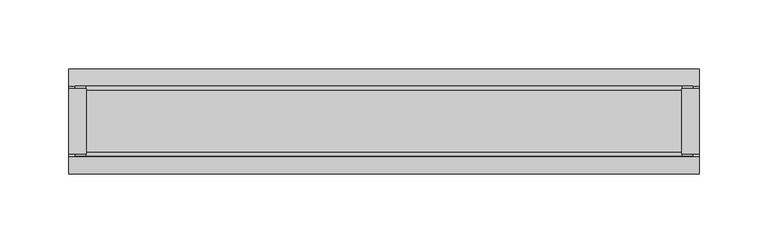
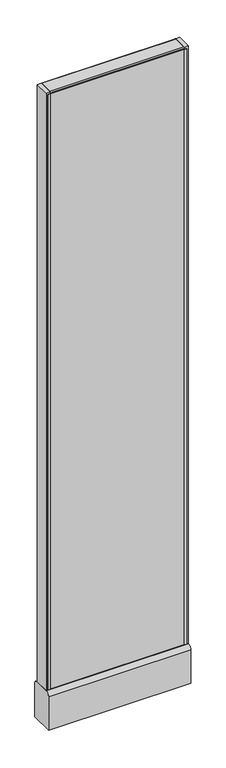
"""IFC4 building model written with IfcOpenShell, lengths in millimetres: furniture geometry."""

from ifc_helpers import new_model, si_unit, point, frame, frame_2d, origin, place, context, project, spatial, polyline, circle_curve, trimmed, segment, composite_curve, outline, extrude, source, transform, mapped, element, save
from ifc_brep_helpers import plane_surface, cylinder_surface, advanced_brep


def furniture_7ffcbc65(model_context):
    return source(origin(), model_context, "Body", "SolidModel", [
        advanced_brep(
        [(171.45, 0.0, 0.0), (196.85, 0.0, 0.0), (184.15, 0.0, 0.0), (171.45, 0.0, 4.7625), (196.85, 0.0, 4.7625), (177.8, 0.0, 4.7625), (190.5, 0.0, 4.7625), (177.8, 0.0, 111.125), (190.5, 0.0, 111.125), (184.15, 0.0, 111.125)],
        [
            (0, 1, circle_curve(frame((184.15, 0.0, 0.0), z_axis=(0.0, 0.0, -1.0), x_axis=(1.0, 0.0, 0.0)), 12.7)),
            (1, 2),
            (2, 0),
            (1, 0, circle_curve(frame((184.15, 0.0, 0.0), z_axis=(0.0, 0.0, -1.0), x_axis=(1.0, 0.0, 0.0)), 12.7)),
            (3, 4, circle_curve(frame((184.15, 0.0, 4.7625), z_axis=(0.0, 0.0, -1.0), x_axis=(1.0, 0.0, 0.0)), 12.7)),
            (4, 1),
            (0, 3),
            (4, 3, circle_curve(frame((184.15, 0.0, 4.7625), z_axis=(0.0, 0.0, -1.0), x_axis=(1.0, 0.0, 0.0)), 12.7)),
            (5, 6, circle_curve(frame((184.15, 0.0, 4.7625), z_axis=(0.0, 0.0, -1.0), x_axis=(1.0, 0.0, 0.0)), 6.35)),
            (6, 4),
            (3, 5),
            (6, 5, circle_curve(frame((184.15, 0.0, 4.7625), z_axis=(0.0, 0.0, -1.0), x_axis=(1.0, 0.0, 0.0)), 6.35)),
            (7, 8, circle_curve(frame((184.15, 0.0, 111.125), z_axis=(0.0, 0.0, -1.0), x_axis=(1.0, 0.0, 0.0)), 6.35)),
            (8, 6),
            (5, 7),
            (8, 7, circle_curve(frame((184.15, 0.0, 111.125), z_axis=(0.0, 0.0, -1.0), x_axis=(1.0, 0.0, 0.0)), 6.35)),
            (9, 8),
            (7, 9),
        ],
        [
            plane_surface(frame((184.15, 0.0, 0.0), z_axis=(0.0, 0.0, -1.0), x_axis=(1.0, 0.0, 0.0))),
            cylinder_surface(frame((184.15, 0.0, 114.882153), z_axis=(0.0, 0.0, 1.0), x_axis=(1.0, 0.0, 0.0)), 12.7),
            plane_surface(frame((184.15, 0.0, 4.7625), z_axis=(0.0, 0.0, 1.0), x_axis=(1.0, 0.0, 0.0))),
            cylinder_surface(frame((184.15, 0.0, 114.882153), z_axis=(0.0, 0.0, 1.0), x_axis=(1.0, 0.0, 0.0)), 6.35),
            plane_surface(frame((184.15, 0.0, 111.125), z_axis=(0.0, 0.0, 1.0), x_axis=(1.0, 0.0, 0.0))),
        ],
        [
            (0, [[1, 2, 3]]),
            (0, [[4, -3, -2]]),
            (1, [[5, 6, -1, 7]]),
            (1, [[8, -7, -4, -6]]),
            (2, [[9, 10, -5, 11]]),
            (2, [[12, -11, -8, -10]]),
            (3, [[13, 14, -9, 15]]),
            (3, [[16, -15, -12, -14]]),
            (4, [[17, -13, 18]]),
            (4, [[-18, -16, -17]]),
        ],
    ),
        advanced_brep(
        [(-196.85, 0.0, 4.7625), (-171.45, 0.0, 4.7625), (-171.45, 0.0, 0.0), (-196.85, 0.0, 0.0), (-190.5, 0.0, 4.7625), (-177.8, 0.0, 4.7625), (-190.5, 0.0, 111.125), (-177.8, 0.0, 111.125), (-184.15, 0.0, 111.125), (-184.15, 0.0, 0.0)],
        [
            (0, 1, circle_curve(frame((-184.15, 0.0, 4.7625), z_axis=(0.0, 0.0, -1.0), x_axis=(1.0, 0.0, 0.0)), 12.7)),
            (1, 2),
            (2, 3, circle_curve(frame((-184.15, 0.0, 0.0), z_axis=(0.0, 0.0, 1.0), x_axis=(1.0, 0.0, 0.0)), 12.7)),
            (3, 0),
            (1, 0, circle_curve(frame((-184.15, 0.0, 4.7625), z_axis=(0.0, 0.0, -1.0), x_axis=(1.0, 0.0, 0.0)), 12.7)),
            (3, 2, circle_curve(frame((-184.15, 0.0, 0.0), z_axis=(0.0, 0.0, 1.0), x_axis=(1.0, 0.0, 0.0)), 12.7)),
            (4, 5, circle_curve(frame((-184.15, 0.0, 4.7625), z_axis=(0.0, 0.0, -1.0), x_axis=(1.0, 0.0, 0.0)), 6.35)),
            (5, 1),
            (0, 4),
            (5, 4, circle_curve(frame((-184.15, 0.0, 4.7625), z_axis=(0.0, 0.0, -1.0), x_axis=(1.0, 0.0, 0.0)), 6.35)),
            (6, 7, circle_curve(frame((-184.15, 0.0, 111.125), z_axis=(0.0, 0.0, -1.0), x_axis=(1.0, 0.0, 0.0)), 6.35)),
            (7, 5),
            (4, 6),
            (7, 6, circle_curve(frame((-184.15, 0.0, 111.125), z_axis=(0.0, 0.0, -1.0), x_axis=(1.0, 0.0, 0.0)), 6.35)),
            (8, 7),
            (6, 8),
            (2, 9),
            (9, 3),
        ],
        [
            cylinder_surface(frame((-184.15, 0.0, 123.825), z_axis=(0.0, 0.0, 1.0), x_axis=(1.0, 0.0, 0.0)), 12.7),
            plane_surface(frame((-184.15, 0.0, 4.7625), z_axis=(0.0, 0.0, 1.0), x_axis=(1.0, 0.0, 0.0))),
            cylinder_surface(frame((-184.15, 0.0, 123.825), z_axis=(0.0, 0.0, 1.0), x_axis=(1.0, 0.0, 0.0)), 6.35),
            plane_surface(frame((-184.15, 0.0, 111.125), z_axis=(0.0, 0.0, 1.0), x_axis=(1.0, 0.0, 0.0))),
            plane_surface(frame((-184.15, 0.0, 0.0), z_axis=(0.0, 0.0, -1.0), x_axis=(1.0, 0.0, 0.0))),
        ],
        [
            (0, [[1, 2, 3, 4]]),
            (0, [[5, -4, 6, -2]]),
            (1, [[7, 8, -1, 9]]),
            (1, [[10, -9, -5, -8]]),
            (2, [[11, 12, -7, 13]]),
            (2, [[14, -13, -10, -12]]),
            (3, [[15, -11, 16]]),
            (3, [[-16, -14, -15]]),
            (4, [[-3, 17, 18]]),
            (4, [[-6, -18, -17]]),
        ],
    ),
        extrude(outline(polyline([(-228.6, 23.8125), (-215.9, 23.8125), (-215.9, -23.8125), (-228.6, -23.8125), (-228.6, 23.8125)])), frame((0.0, 0.0, 136.525), z_axis=(0.0, 0.0, 1.0), x_axis=(1.0, 0.0, 0.0)), (0.0, 0.0, 1.0), 2032.0),
        extrude(outline(polyline([(215.9, -23.8125), (215.9, 23.8125), (228.6, 23.8125), (228.6, -23.8125), (215.9, -23.8125)])), frame((0.0, 0.0, 136.525), z_axis=(0.0, 0.0, 1.0), x_axis=(1.0, 0.0, 0.0)), (0.0, 0.0, 1.0), 2032.0),
        extrude(outline(polyline([(-215.9, 25.4), (-215.9, 23.8125), (-223.8375, 23.8125), (-223.8375, 25.4), (-215.9, 25.4)])), frame((0.0, 0.0, 136.525), z_axis=(0.0, 0.0, 1.0), x_axis=(1.0, 0.0, 0.0)), (0.0, 0.0, 1.0), 2025.65),
        extrude(outline(polyline([(-215.9, -25.4), (-223.8375, -25.4), (-223.8375, -23.8125), (-215.9, -23.8125), (-215.9, -25.4)])), frame((0.0, 0.0, 136.525), z_axis=(0.0, 0.0, 1.0), x_axis=(1.0, 0.0, 0.0)), (0.0, 0.0, 1.0), 2025.65),
        extrude(outline(polyline([(223.8375, 23.8125), (215.9, 23.8125), (215.9, 25.4), (223.8375, 25.4), (223.8375, 23.8125)])), frame((0.0, 0.0, 136.525), z_axis=(0.0, 0.0, 1.0), x_axis=(1.0, 0.0, 0.0)), (0.0, 0.0, 1.0), 2025.65),
        extrude(outline(polyline([(215.9, -25.4), (215.9, -23.8125), (223.8375, -23.8125), (223.8375, -25.4), (215.9, -25.4)])), frame((0.0, 0.0, 136.525), z_axis=(0.0, 0.0, 1.0), x_axis=(1.0, 0.0, 0.0)), (0.0, 0.0, 1.0), 2025.65),
        extrude(outline(composite_curve([segment(trimmed(circle_curve(frame_2d((22.225, 2165.35)), 3.175), [point((22.225, 2168.525))], [point((25.4, 2165.35))], False, "CARTESIAN"), True, "CONTINUOUS"), segment(polyline([(25.4, 2165.35), (25.4, 2162.175), (-25.4, 2162.175), (-25.4, 2165.35)]), True, "CONTINUOUS"), segment(trimmed(circle_curve(frame_2d((-22.225, 2165.35)), 3.175), [point((-25.4, 2165.35))], [point((-22.225, 2168.525))], False, "CARTESIAN"), True, "CONTINUOUS"), segment(polyline([(-22.225, 2168.525), (22.225, 2168.525)]), True, "CONTINUOUS")], self_intersect=False)), frame((-215.9, 0.0, 0.0), z_axis=(1.0, 0.0, 0.0), x_axis=(0.0, 1.0, 0.0)), (0.0, 0.0, 1.0), 431.8),
        extrude(outline(composite_curve([segment(trimmed(circle_curve(frame_2d((25.4, 123.825)), 12.7), [point((25.4, 136.525))], [point((38.1, 123.825))], False, "CARTESIAN"), True, "CONTINUOUS"), segment(polyline([(38.1, 123.825), (38.1, 9.525), (-38.1, 9.525), (-38.1, 123.825)]), True, "CONTINUOUS"), segment(trimmed(circle_curve(frame_2d((-25.4, 123.825)), 12.7), [point((-38.1, 123.825))], [point((-25.4, 136.525))], False, "CARTESIAN"), True, "CONTINUOUS"), segment(polyline([(-25.4, 136.525), (25.4, 136.525)]), True, "CONTINUOUS")], self_intersect=False)), frame((-228.6, 0.0, 0.0), z_axis=(1.0, 0.0, 0.0), x_axis=(0.0, 1.0, 0.0)), (0.0, 0.0, 1.0), 457.2),
        extrude(outline(polyline([(215.9, 23.8125), (215.9, -23.8125), (-215.9, -23.8125), (-215.9, 23.8125), (215.9, 23.8125)])), frame((0.0, 0.0, 136.525), z_axis=(0.0, 0.0, 1.0), x_axis=(1.0, 0.0, 0.0)), (0.0, 0.0, 1.0), 2025.65),
    ])


if __name__ == "__main__":
    model = new_model("IFC4")
    model_context = context("Model", 3, world=origin())
    ifc_project = project(units=[si_unit("LENGTHUNIT", "METRE", prefix="MILLI")], contexts=[model_context])
    site = spatial("IfcSite", under=ifc_project)
    building = spatial("IfcBuilding", under=site)
    placement = place(None, origin())
    furniture_shape = furniture_7ffcbc65(model_context)
    element("IfcFurniture", 1, ObjectType="HermanMiller_ActionOffice_A1110_Hard-SurfacedPanelStandardBase : 85\"H x 18\"W-N", at=placement, inside=building, context=model_context, shape_type="MappedRepresentation", body=[
        mapped(furniture_shape, transform((0.0, 0.0, 0.0), x_axis=(1.0, 0.0, 0.0), y_axis=(0.0, 1.0, 0.0), z_axis=(0.0, 0.0, 1.0))),
    ])
    save(model, "model.ifc")
